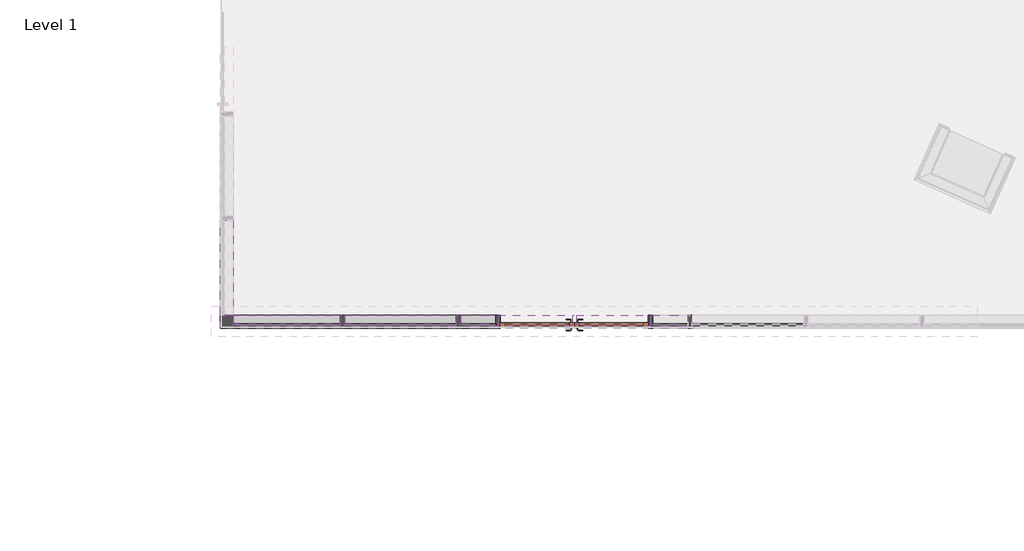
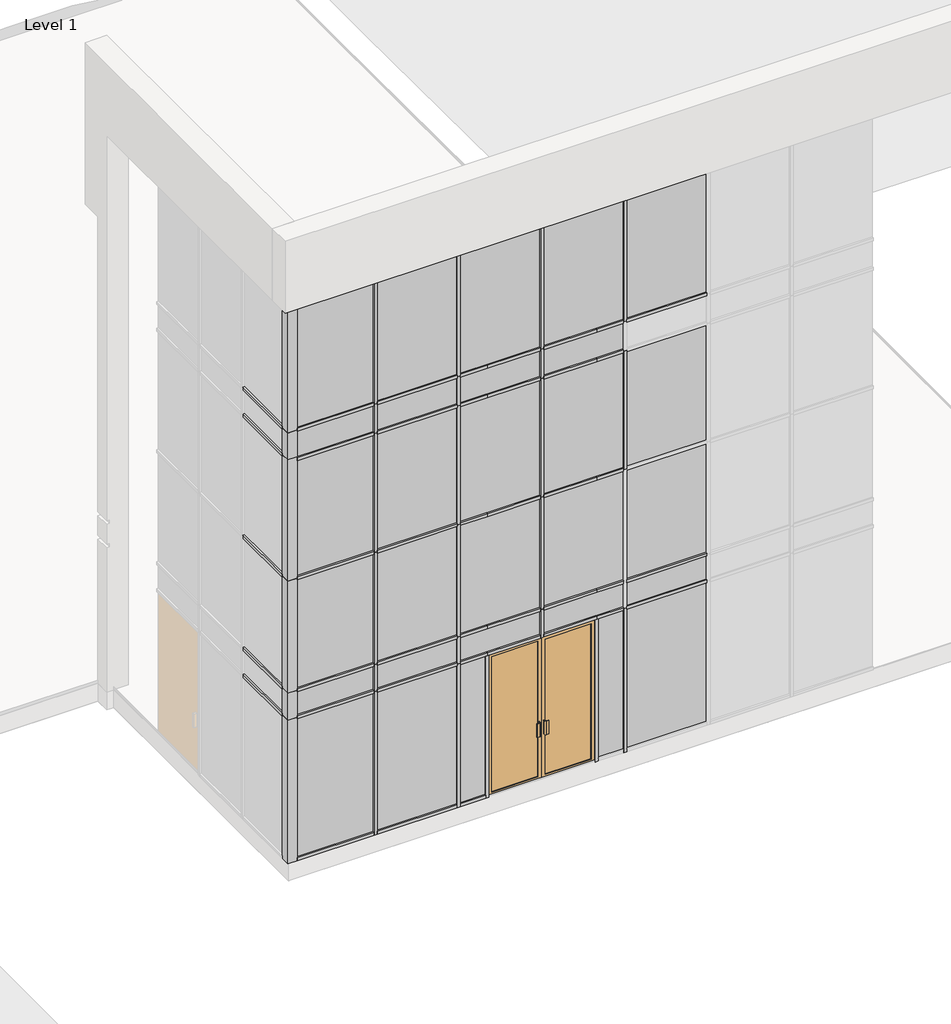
# One storey, part 1 of 6: 77 members, 29 plates, 1 door.
"""IFC4 building model written with IfcOpenShell, lengths in millimetres."""

from ifc_helpers import new_model, si_unit, origin, place, context, project, spatial, transform, mapped, element, save
from components import curtain_wall_store_front_dbl_store_front_double_door_801bb5a2, quad_corner_mullion_quad_mullion_1_36401268, quad_corner_mullion_quad_mullion_1_ea4f9b91, quad_corner_mullion_quad_mullion_1_01ad82a5, quad_corner_mullion_quad_mullion_1_1bba9a7c, quad_corner_mullion_quad_mullion_1_c8c6a4dc, rectangular_mullion_50_x_150mm_f9e96e8e, rectangular_mullion_50_x_150mm_3e94a90c, rectangular_mullion_50_x_150mm_e5e1dcca, rectangular_mullion_50_x_150mm_55a91b40, rectangular_mullion_50_x_150mm_2677f012, rectangular_mullion_50_x_150mm_a98d9a75, rectangular_mullion_50_x_150mm_ec0a15ed, rectangular_mullion_50_x_150mm_1c0c8fcc, rectangular_mullion_50_x_150mm_eadac301, rectangular_mullion_50_x_150mm_5d9cdbe7, rectangular_mullion_50_x_150mm_d8a6659f, rectangular_mullion_50_x_150mm_fcddba0b, rectangular_mullion_50_x_150mm_a0320c88, rectangular_mullion_50_x_150mm_ca17d0d0, rectangular_mullion_50_x_150mm_5d0e247a, rectangular_mullion_50_x_150mm_ac182503, rectangular_mullion_50_x_150mm_6df5bc23, rectangular_mullion_50_x_150mm_c664ab49, rectangular_mullion_50_x_150mm_22f77a7a, system_panel_glazed_e39aac95, system_panel_glazed_619aa5c3, system_panel_glazed_1cc95e9d, system_panel_glazed_5f4b9808, system_panel_glazed_b287760b, system_panel_glazed_29643dd6, system_panel_glazed_af9e971b, system_panel_glazed_48c6fd0a, system_panel_glazed_c7737e29, system_panel_glazed_306ee6b9, system_panel_glazed_77750b0d, system_panel_glazed_203c2d9e, system_panel_glazed_886dd139, system_panel_glazed_da816d4c, system_panel_glazed_7acc0e97, system_panel_glazed_b8e40a07, system_panel_glazed_b5705625, system_panel_glazed_676078d9, system_panel_glazed_869bd01b, system_panel_glazed_e5b4937b, system_panel_glazed_d8b70277, system_panel_glazed_a0fe1279, system_panel_glazed_06afaa24

model = new_model("IFC4")

# Units and contexts
model_context = context("Model", 3, world=origin())
ifc_project = project(units=[si_unit("LENGTHUNIT", "METRE", prefix="MILLI")], contexts=[model_context])

# Site, building, storey
site = spatial("IfcSite", under=ifc_project)
building = spatial("IfcBuilding", under=site)
storey = spatial("IfcBuildingStorey", under=building, Name="Level 1", Elevation=45720.0)

# Door
placement = place(None, origin())
curtain_wall_store_front_dbl_store_front_double_door_shape = curtain_wall_store_front_dbl_store_front_double_door_801bb5a2(model_context)
element("IfcDoor", 1, ObjectType="Curtain Wall-Store Front-Dbl : Store Front Double Door", at=placement, inside=storey, context=model_context, shape_type="MappedRepresentation", body=[
    mapped(curtain_wall_store_front_dbl_store_front_double_door_shape, transform((-6116.5463072, -8109.3373862, 45720.0), x_axis=(-1.0, 0.0, 0.0), y_axis=(0.0, -1.0, 0.0), z_axis=(0.0, 0.0, 1.0))),
])

# Members
quad_corner_mullion_quad_mullion_1_shape = quad_corner_mullion_quad_mullion_1_36401268(model_context)
element("IfcMember", 2, ObjectType="Quad Corner Mullion : Quad Mullion 1", at=placement, inside=storey, context=model_context, shape_type="MappedRepresentation", body=[
    mapped(quad_corner_mullion_quad_mullion_1_shape, transform((-10125.6188072, -8109.3373862, 50520.0), x_axis=(0.0, -1.0, 0.0), y_axis=(-1.0, 0.0, 0.0), z_axis=(0.0, 0.0, -1.0))),
])
quad_corner_mullion_quad_mullion_1_2_shape = quad_corner_mullion_quad_mullion_1_ea4f9b91(model_context)
element("IfcMember", 3, ObjectType="Quad Corner Mullion : Quad Mullion 1", at=placement, inside=storey, context=model_context, shape_type="MappedRepresentation", body=[
    mapped(quad_corner_mullion_quad_mullion_1_2_shape, transform((-10125.6188072, -8109.3373862, 53035.2), x_axis=(0.0, -1.0, 0.0), y_axis=(-1.0, 0.0, 0.0), z_axis=(0.0, 0.0, -1.0))),
])
quad_corner_mullion_quad_mullion_1_3_shape = quad_corner_mullion_quad_mullion_1_01ad82a5(model_context)
element("IfcMember", 4, ObjectType="Quad Corner Mullion : Quad Mullion 1", at=placement, inside=storey, context=model_context, shape_type="MappedRepresentation", body=[
    mapped(quad_corner_mullion_quad_mullion_1_3_shape, transform((-10125.6188072, -8109.3373862, 48615.6), x_axis=(0.0, -1.0, 0.0), y_axis=(-1.0, 0.0, 0.0), z_axis=(0.0, 0.0, -1.0))),
])
quad_corner_mullion_quad_mullion_1_4_shape = quad_corner_mullion_quad_mullion_1_1bba9a7c(model_context)
element("IfcMember", 5, ObjectType="Quad Corner Mullion : Quad Mullion 1", at=placement, inside=storey, context=model_context, shape_type="MappedRepresentation", body=[
    mapped(quad_corner_mullion_quad_mullion_1_4_shape, transform((-10125.6188072, -8109.3373862, 48158.4), x_axis=(0.0, -1.0, 0.0), y_axis=(-1.0, 0.0, 0.0), z_axis=(0.0, 0.0, -1.0))),
])
element("IfcMember", 6, ObjectType="Quad Corner Mullion : Quad Mullion 1", at=placement, inside=storey, context=model_context, shape_type="MappedRepresentation", body=[
    mapped(quad_corner_mullion_quad_mullion_1_4_shape, transform((-10125.6188072, -8109.3373862, 52578.0), x_axis=(0.0, -1.0, 0.0), y_axis=(-1.0, 0.0, 0.0), z_axis=(0.0, 0.0, -1.0))),
])
quad_corner_mullion_quad_mullion_1_5_shape = quad_corner_mullion_quad_mullion_1_c8c6a4dc(model_context)
element("IfcMember", 7, ObjectType="Quad Corner Mullion : Quad Mullion 1", at=placement, inside=storey, context=model_context, shape_type="MappedRepresentation", body=[
    mapped(quad_corner_mullion_quad_mullion_1_5_shape, transform((-10125.6188072, -8109.3373862, 45720.0), x_axis=(0.0, -1.0, 0.0), y_axis=(-1.0, 0.0, 0.0), z_axis=(0.0, 0.0, -1.0))),
])
rectangular_mullion_50_x_150mm_shape = rectangular_mullion_50_x_150mm_f9e96e8e(model_context)
element("IfcMember", 8, ObjectType="Rectangular Mullion : 50 x 150mm", at=placement, inside=storey, context=model_context, shape_type="MappedRepresentation", body=[
    mapped(rectangular_mullion_50_x_150mm_shape, transform((-10125.6188072, -8034.3373862, 55168.8), x_axis=(0.0, 0.0, 1.0), y_axis=(-1.0, 0.0, 0.0), z_axis=(0.0, -1.0, 0.0))),
])
rectangular_mullion_50_x_150mm_2_shape = rectangular_mullion_50_x_150mm_3e94a90c(model_context)
element("IfcMember", 9, ObjectType="Rectangular Mullion : 50 x 150mm", at=placement, inside=storey, context=model_context, shape_type="MappedRepresentation", body=[
    mapped(rectangular_mullion_50_x_150mm_2_shape, transform((-10125.6188072, -8034.3373862, 48158.4), x_axis=(0.0, 0.0, 1.0), y_axis=(-1.0, 0.0, 0.0), z_axis=(0.0, -1.0, 0.0))),
])
element("IfcMember", 10, ObjectType="Rectangular Mullion : 50 x 150mm", at=placement, inside=storey, context=model_context, shape_type="MappedRepresentation", body=[
    mapped(rectangular_mullion_50_x_150mm_2_shape, transform((-10125.6188072, -8034.3373862, 50520.0), x_axis=(0.0, 0.0, 1.0), y_axis=(-1.0, 0.0, 0.0), z_axis=(0.0, -1.0, 0.0))),
])
element("IfcMember", 11, ObjectType="Rectangular Mullion : 50 x 150mm", at=placement, inside=storey, context=model_context, shape_type="MappedRepresentation", body=[
    mapped(rectangular_mullion_50_x_150mm_2_shape, transform((-10125.6188072, -8034.3373862, 53035.2), x_axis=(0.0, 0.0, 1.0), y_axis=(-1.0, 0.0, 0.0), z_axis=(0.0, -1.0, 0.0))),
])
element("IfcMember", 12, ObjectType="Rectangular Mullion : 50 x 150mm", at=placement, inside=storey, context=model_context, shape_type="MappedRepresentation", body=[
    mapped(rectangular_mullion_50_x_150mm_2_shape, transform((-10125.6188072, -8034.3373862, 48615.6), x_axis=(0.0, 0.0, 1.0), y_axis=(-1.0, 0.0, 0.0), z_axis=(0.0, -1.0, 0.0))),
])
element("IfcMember", 13, ObjectType="Rectangular Mullion : 50 x 150mm", at=placement, inside=storey, context=model_context, shape_type="MappedRepresentation", body=[
    mapped(rectangular_mullion_50_x_150mm_2_shape, transform((-10125.6188072, -8034.3373862, 52578.0), x_axis=(0.0, 0.0, 1.0), y_axis=(-1.0, 0.0, 0.0), z_axis=(0.0, -1.0, 0.0))),
])
rectangular_mullion_50_x_150mm_3_shape = rectangular_mullion_50_x_150mm_e5e1dcca(model_context)
element("IfcMember", 14, ObjectType="Rectangular Mullion : 50 x 150mm", at=placement, inside=storey, context=model_context, shape_type="MappedRepresentation", body=[
    mapped(rectangular_mullion_50_x_150mm_3_shape, transform((-8789.2613072, -8109.3373862, 48158.4), x_axis=(-1.0, 0.0, 0.0), y_axis=(0.0, 1.0, 0.0), z_axis=(0.0, 0.0, -1.0))),
])
element("IfcMember", 15, ObjectType="Rectangular Mullion : 50 x 150mm", at=placement, inside=storey, context=model_context, shape_type="MappedRepresentation", body=[
    mapped(rectangular_mullion_50_x_150mm_3_shape, transform((-7452.9038072, -8109.3373862, 48158.4), x_axis=(-1.0, 0.0, 0.0), y_axis=(0.0, 1.0, 0.0), z_axis=(0.0, 0.0, -1.0))),
])
rectangular_mullion_50_x_150mm_4_shape = rectangular_mullion_50_x_150mm_55a91b40(model_context)
element("IfcMember", 16, ObjectType="Rectangular Mullion : 50 x 150mm", at=placement, inside=storey, context=model_context, shape_type="MappedRepresentation", body=[
    mapped(rectangular_mullion_50_x_150mm_4_shape, transform((-8789.2613072, -8109.3373862, 48615.6), x_axis=(-1.0, 0.0, 0.0), y_axis=(0.0, 1.0, 0.0), z_axis=(0.0, 0.0, -1.0))),
])
element("IfcMember", 17, ObjectType="Rectangular Mullion : 50 x 150mm", at=placement, inside=storey, context=model_context, shape_type="MappedRepresentation", body=[
    mapped(rectangular_mullion_50_x_150mm_4_shape, transform((-7452.9038072, -8109.3373862, 48615.6), x_axis=(-1.0, 0.0, 0.0), y_axis=(0.0, 1.0, 0.0), z_axis=(0.0, 0.0, -1.0))),
])
element("IfcMember", 18, ObjectType="Rectangular Mullion : 50 x 150mm", at=placement, inside=storey, context=model_context, shape_type="MappedRepresentation", body=[
    mapped(rectangular_mullion_50_x_150mm_4_shape, transform((-6116.5463072, -8109.3373862, 48615.6), x_axis=(-1.0, 0.0, 0.0), y_axis=(0.0, 1.0, 0.0), z_axis=(0.0, 0.0, -1.0))),
])
rectangular_mullion_50_x_150mm_5_shape = rectangular_mullion_50_x_150mm_2677f012(model_context)
element("IfcMember", 19, ObjectType="Rectangular Mullion : 50 x 150mm", at=placement, inside=storey, context=model_context, shape_type="MappedRepresentation", body=[
    mapped(rectangular_mullion_50_x_150mm_5_shape, transform((-8789.2613072, -8109.3373862, 53035.2), x_axis=(-1.0, 0.0, 0.0), y_axis=(0.0, 1.0, 0.0), z_axis=(0.0, 0.0, -1.0))),
])
element("IfcMember", 20, ObjectType="Rectangular Mullion : 50 x 150mm", at=placement, inside=storey, context=model_context, shape_type="MappedRepresentation", body=[
    mapped(rectangular_mullion_50_x_150mm_5_shape, transform((-7452.9038072, -8109.3373862, 53035.2), x_axis=(-1.0, 0.0, 0.0), y_axis=(0.0, 1.0, 0.0), z_axis=(0.0, 0.0, -1.0))),
])
element("IfcMember", 21, ObjectType="Rectangular Mullion : 50 x 150mm", at=placement, inside=storey, context=model_context, shape_type="MappedRepresentation", body=[
    mapped(rectangular_mullion_50_x_150mm_5_shape, transform((-4780.1888072, -8109.3373862, 53035.2), x_axis=(-1.0, 0.0, 0.0), y_axis=(0.0, 1.0, 0.0), z_axis=(0.0, 0.0, -1.0))),
])
element("IfcMember", 22, ObjectType="Rectangular Mullion : 50 x 150mm", at=placement, inside=storey, context=model_context, shape_type="MappedRepresentation", body=[
    mapped(rectangular_mullion_50_x_150mm_5_shape, transform((-6116.5463072, -8109.3373862, 53035.2), x_axis=(-1.0, 0.0, 0.0), y_axis=(0.0, 1.0, 0.0), z_axis=(0.0, 0.0, -1.0))),
])
rectangular_mullion_50_x_150mm_6_shape = rectangular_mullion_50_x_150mm_a98d9a75(model_context)
element("IfcMember", 23, ObjectType="Rectangular Mullion : 50 x 150mm", at=placement, inside=storey, context=model_context, shape_type="MappedRepresentation", body=[
    mapped(rectangular_mullion_50_x_150mm_6_shape, transform((-7452.9038072, -8109.3373862, 45720.0), x_axis=(-1.0, 0.0, 0.0), y_axis=(0.0, 1.0, 0.0), z_axis=(0.0, 0.0, -1.0))),
])
element("IfcMember", 24, ObjectType="Rectangular Mullion : 50 x 150mm", at=placement, inside=storey, context=model_context, shape_type="MappedRepresentation", body=[
    mapped(rectangular_mullion_50_x_150mm_6_shape, transform((-4780.1888072, -8109.3373862, 45720.0), x_axis=(-1.0, 0.0, 0.0), y_axis=(0.0, 1.0, 0.0), z_axis=(0.0, 0.0, -1.0))),
])
element("IfcMember", 25, ObjectType="Rectangular Mullion : 50 x 150mm", at=placement, inside=storey, context=model_context, shape_type="MappedRepresentation", body=[
    mapped(rectangular_mullion_50_x_150mm_6_shape, transform((-8789.2613072, -8109.3373862, 45720.0), x_axis=(-1.0, 0.0, 0.0), y_axis=(0.0, 1.0, 0.0), z_axis=(0.0, 0.0, -1.0))),
])
rectangular_mullion_50_x_150mm_7_shape = rectangular_mullion_50_x_150mm_ec0a15ed(model_context)
element("IfcMember", 26, ObjectType="Rectangular Mullion : 50 x 150mm", at=placement, inside=storey, context=model_context, shape_type="MappedRepresentation", body=[
    mapped(rectangular_mullion_50_x_150mm_7_shape, transform((-6116.5463072, -8109.3373862, 48133.4), x_axis=(-1.0, 0.0, 0.0), y_axis=(0.0, 1.0, 0.0), z_axis=(0.0, 0.0, -1.0))),
])
rectangular_mullion_50_x_150mm_8_shape = rectangular_mullion_50_x_150mm_1c0c8fcc(model_context)
element("IfcMember", 27, ObjectType="Rectangular Mullion : 50 x 150mm", at=placement, inside=storey, context=model_context, shape_type="MappedRepresentation", body=[
    mapped(rectangular_mullion_50_x_150mm_8_shape, transform((-4755.1888072, -8109.3373862, 48615.6), x_axis=(0.0, 0.0, 1.0), y_axis=(0.0, 1.0, 0.0), z_axis=(-1.0, 0.0, 0.0))),
])
element("IfcMember", 28, ObjectType="Rectangular Mullion : 50 x 150mm", at=placement, inside=storey, context=model_context, shape_type="MappedRepresentation", body=[
    mapped(rectangular_mullion_50_x_150mm_8_shape, transform((-8764.2613072, -8109.3373862, 48158.4), x_axis=(0.0, 0.0, 1.0), y_axis=(0.0, 1.0, 0.0), z_axis=(-1.0, 0.0, 0.0))),
])
element("IfcMember", 29, ObjectType="Rectangular Mullion : 50 x 150mm", at=placement, inside=storey, context=model_context, shape_type="MappedRepresentation", body=[
    mapped(rectangular_mullion_50_x_150mm_8_shape, transform((-4755.1888072, -8109.3373862, 48158.4), x_axis=(0.0, 0.0, 1.0), y_axis=(0.0, 1.0, 0.0), z_axis=(-1.0, 0.0, 0.0))),
])
element("IfcMember", 30, ObjectType="Rectangular Mullion : 50 x 150mm", at=placement, inside=storey, context=model_context, shape_type="MappedRepresentation", body=[
    mapped(rectangular_mullion_50_x_150mm_8_shape, transform((-8764.2613072, -8109.3373862, 48615.6), x_axis=(0.0, 0.0, 1.0), y_axis=(0.0, 1.0, 0.0), z_axis=(-1.0, 0.0, 0.0))),
])
element("IfcMember", 31, ObjectType="Rectangular Mullion : 50 x 150mm", at=placement, inside=storey, context=model_context, shape_type="MappedRepresentation", body=[
    mapped(rectangular_mullion_50_x_150mm_8_shape, transform((-4755.1888072, -8109.3373862, 53035.2), x_axis=(0.0, 0.0, 1.0), y_axis=(0.0, 1.0, 0.0), z_axis=(-1.0, 0.0, 0.0))),
])
element("IfcMember", 32, ObjectType="Rectangular Mullion : 50 x 150mm", at=placement, inside=storey, context=model_context, shape_type="MappedRepresentation", body=[
    mapped(rectangular_mullion_50_x_150mm_8_shape, transform((-8764.2613072, -8109.3373862, 50520.0), x_axis=(0.0, 0.0, 1.0), y_axis=(0.0, 1.0, 0.0), z_axis=(-1.0, 0.0, 0.0))),
])
element("IfcMember", 33, ObjectType="Rectangular Mullion : 50 x 150mm", at=placement, inside=storey, context=model_context, shape_type="MappedRepresentation", body=[
    mapped(rectangular_mullion_50_x_150mm_8_shape, transform((-8764.2613072, -8109.3373862, 53035.2), x_axis=(0.0, 0.0, 1.0), y_axis=(0.0, 1.0, 0.0), z_axis=(-1.0, 0.0, 0.0))),
])
element("IfcMember", 34, ObjectType="Rectangular Mullion : 50 x 150mm", at=placement, inside=storey, context=model_context, shape_type="MappedRepresentation", body=[
    mapped(rectangular_mullion_50_x_150mm_8_shape, transform((-8764.2613072, -8109.3373862, 52535.2), x_axis=(0.0, 0.0, 1.0), y_axis=(0.0, 1.0, 0.0), z_axis=(-1.0, 0.0, 0.0))),
])
rectangular_mullion_50_x_150mm_9_shape = rectangular_mullion_50_x_150mm_eadac301(model_context)
element("IfcMember", 35, ObjectType="Rectangular Mullion : 50 x 150mm", at=placement, inside=storey, context=model_context, shape_type="MappedRepresentation", body=[
    mapped(rectangular_mullion_50_x_150mm_9_shape, transform((-10050.6188072, -8109.3373862, 50520.0), x_axis=(0.0, 0.0, 1.0), y_axis=(0.0, 1.0, 0.0), z_axis=(-1.0, 0.0, 0.0))),
])
element("IfcMember", 36, ObjectType="Rectangular Mullion : 50 x 150mm", at=placement, inside=storey, context=model_context, shape_type="MappedRepresentation", body=[
    mapped(rectangular_mullion_50_x_150mm_9_shape, transform((-10050.6188072, -8109.3373862, 48158.4), x_axis=(0.0, 0.0, 1.0), y_axis=(0.0, 1.0, 0.0), z_axis=(-1.0, 0.0, 0.0))),
])
element("IfcMember", 37, ObjectType="Rectangular Mullion : 50 x 150mm", at=placement, inside=storey, context=model_context, shape_type="MappedRepresentation", body=[
    mapped(rectangular_mullion_50_x_150mm_9_shape, transform((-10050.6188072, -8109.3373862, 48615.6), x_axis=(0.0, 0.0, 1.0), y_axis=(0.0, 1.0, 0.0), z_axis=(-1.0, 0.0, 0.0))),
])
element("IfcMember", 38, ObjectType="Rectangular Mullion : 50 x 150mm", at=placement, inside=storey, context=model_context, shape_type="MappedRepresentation", body=[
    mapped(rectangular_mullion_50_x_150mm_9_shape, transform((-10050.6188072, -8109.3373862, 53035.2), x_axis=(0.0, 0.0, 1.0), y_axis=(0.0, 1.0, 0.0), z_axis=(-1.0, 0.0, 0.0))),
])
element("IfcMember", 39, ObjectType="Rectangular Mullion : 50 x 150mm", at=placement, inside=storey, context=model_context, shape_type="MappedRepresentation", body=[
    mapped(rectangular_mullion_50_x_150mm_9_shape, transform((-10050.6188072, -8109.3373862, 52535.2), x_axis=(0.0, 0.0, 1.0), y_axis=(0.0, 1.0, 0.0), z_axis=(-1.0, 0.0, 0.0))),
])
rectangular_mullion_50_x_150mm_10_shape = rectangular_mullion_50_x_150mm_5d9cdbe7(model_context)
element("IfcMember", 40, ObjectType="Rectangular Mullion : 50 x 150mm", at=placement, inside=storey, context=model_context, shape_type="MappedRepresentation", body=[
    mapped(rectangular_mullion_50_x_150mm_10_shape, transform((-7477.9038072, -8109.3373862, 45720.0), x_axis=(0.0, 0.0, -1.0), y_axis=(0.0, 1.0, 0.0), z_axis=(1.0, 0.0, 0.0))),
])
element("IfcMember", 41, ObjectType="Rectangular Mullion : 50 x 150mm", at=placement, inside=storey, context=model_context, shape_type="MappedRepresentation", body=[
    mapped(rectangular_mullion_50_x_150mm_10_shape, transform((-8764.2613072, -8109.3373862, 55168.8), x_axis=(0.0, 0.0, 1.0), y_axis=(0.0, 1.0, 0.0), z_axis=(-1.0, 0.0, 0.0))),
])
element("IfcMember", 42, ObjectType="Rectangular Mullion : 50 x 150mm", at=placement, inside=storey, context=model_context, shape_type="MappedRepresentation", body=[
    mapped(rectangular_mullion_50_x_150mm_10_shape, transform((-4755.1888072, -8109.3373862, 55168.8), x_axis=(0.0, 0.0, 1.0), y_axis=(0.0, 1.0, 0.0), z_axis=(-1.0, 0.0, 0.0))),
])
rectangular_mullion_50_x_150mm_11_shape = rectangular_mullion_50_x_150mm_d8a6659f(model_context)
element("IfcMember", 43, ObjectType="Rectangular Mullion : 50 x 150mm", at=placement, inside=storey, context=model_context, shape_type="MappedRepresentation", body=[
    mapped(rectangular_mullion_50_x_150mm_11_shape, transform((-10050.6188072, -8109.3373862, 55168.8), x_axis=(0.0, 0.0, 1.0), y_axis=(0.0, 1.0, 0.0), z_axis=(-1.0, 0.0, 0.0))),
])
element("IfcMember", 44, ObjectType="Rectangular Mullion : 50 x 150mm", at=placement, inside=storey, context=model_context, shape_type="MappedRepresentation", body=[
    mapped(rectangular_mullion_50_x_150mm_11_shape, transform((-8814.2613072, -8109.3373862, 45720.0), x_axis=(0.0, 0.0, -1.0), y_axis=(0.0, 1.0, 0.0), z_axis=(1.0, 0.0, 0.0))),
])
rectangular_mullion_50_x_150mm_12_shape = rectangular_mullion_50_x_150mm_fcddba0b(model_context)
element("IfcMember", 45, ObjectType="Rectangular Mullion : 50 x 150mm", at=placement, inside=storey, context=model_context, shape_type="MappedRepresentation", body=[
    mapped(rectangular_mullion_50_x_150mm_12_shape, transform((-6995.7038072, -8109.3373862, 45720.0), x_axis=(-1.0, 0.0, 0.0), y_axis=(0.0, 1.0, 0.0), z_axis=(0.0, 0.0, -1.0))),
])
element("IfcMember", 46, ObjectType="Rectangular Mullion : 50 x 150mm", at=placement, inside=storey, context=model_context, shape_type="MappedRepresentation", body=[
    mapped(rectangular_mullion_50_x_150mm_12_shape, transform((-5237.3888072, -8109.3373862, 45720.0), x_axis=(-1.0, 0.0, 0.0), y_axis=(0.0, 1.0, 0.0), z_axis=(0.0, 0.0, -1.0))),
])
rectangular_mullion_50_x_150mm_13_shape = rectangular_mullion_50_x_150mm_a0320c88(model_context)
element("IfcMember", 47, ObjectType="Rectangular Mullion : 50 x 150mm", at=placement, inside=storey, context=model_context, shape_type="MappedRepresentation", body=[
    mapped(rectangular_mullion_50_x_150mm_13_shape, transform((-7427.9038072, -8109.3373862, 55168.8), x_axis=(0.0, 0.0, 1.0), y_axis=(0.0, 1.0, 0.0), z_axis=(-1.0, 0.0, 0.0))),
])
rectangular_mullion_50_x_150mm_14_shape = rectangular_mullion_50_x_150mm_ca17d0d0(model_context)
element("IfcMember", 48, ObjectType="Rectangular Mullion : 50 x 150mm", at=placement, inside=storey, context=model_context, shape_type="MappedRepresentation", body=[
    mapped(rectangular_mullion_50_x_150mm_14_shape, transform((-6995.7038072, -8109.3373862, 48158.4), x_axis=(0.0, 0.0, 1.0), y_axis=(0.0, 1.0, 0.0), z_axis=(-1.0, 0.0, 0.0))),
])
element("IfcMember", 49, ObjectType="Rectangular Mullion : 50 x 150mm", at=placement, inside=storey, context=model_context, shape_type="MappedRepresentation", body=[
    mapped(rectangular_mullion_50_x_150mm_14_shape, transform((-6995.7038072, -8109.3373862, 48615.6), x_axis=(0.0, 0.0, 1.0), y_axis=(0.0, 1.0, 0.0), z_axis=(-1.0, 0.0, 0.0))),
])
element("IfcMember", 50, ObjectType="Rectangular Mullion : 50 x 150mm", at=placement, inside=storey, context=model_context, shape_type="MappedRepresentation", body=[
    mapped(rectangular_mullion_50_x_150mm_14_shape, transform((-6995.7038072, -8109.3373862, 50520.0), x_axis=(0.0, 0.0, 1.0), y_axis=(0.0, 1.0, 0.0), z_axis=(-1.0, 0.0, 0.0))),
])
element("IfcMember", 51, ObjectType="Rectangular Mullion : 50 x 150mm", at=placement, inside=storey, context=model_context, shape_type="MappedRepresentation", body=[
    mapped(rectangular_mullion_50_x_150mm_14_shape, transform((-6995.7038072, -8109.3373862, 53035.2), x_axis=(0.0, 0.0, 1.0), y_axis=(0.0, 1.0, 0.0), z_axis=(-1.0, 0.0, 0.0))),
])
element("IfcMember", 52, ObjectType="Rectangular Mullion : 50 x 150mm", at=placement, inside=storey, context=model_context, shape_type="MappedRepresentation", body=[
    mapped(rectangular_mullion_50_x_150mm_14_shape, transform((-6995.7038072, -8109.3373862, 52535.2), x_axis=(0.0, 0.0, 1.0), y_axis=(0.0, 1.0, 0.0), z_axis=(-1.0, 0.0, 0.0))),
])
rectangular_mullion_50_x_150mm_15_shape = rectangular_mullion_50_x_150mm_5d0e247a(model_context)
element("IfcMember", 53, ObjectType="Rectangular Mullion : 50 x 150mm", at=placement, inside=storey, context=model_context, shape_type="MappedRepresentation", body=[
    mapped(rectangular_mullion_50_x_150mm_15_shape, transform((-6995.7038072, -8109.3373862, 55168.8), x_axis=(0.0, 0.0, 1.0), y_axis=(0.0, 1.0, 0.0), z_axis=(-1.0, 0.0, 0.0))),
])
rectangular_mullion_50_x_150mm_16_shape = rectangular_mullion_50_x_150mm_ac182503(model_context)
element("IfcMember", 54, ObjectType="Rectangular Mullion : 50 x 150mm", at=placement, inside=storey, context=model_context, shape_type="MappedRepresentation", body=[
    mapped(rectangular_mullion_50_x_150mm_16_shape, transform((-7427.9038072, -8109.3373862, 48158.4), x_axis=(0.0, 0.0, 1.0), y_axis=(0.0, 1.0, 0.0), z_axis=(-1.0, 0.0, 0.0))),
])
element("IfcMember", 55, ObjectType="Rectangular Mullion : 50 x 150mm", at=placement, inside=storey, context=model_context, shape_type="MappedRepresentation", body=[
    mapped(rectangular_mullion_50_x_150mm_16_shape, transform((-7427.9038072, -8109.3373862, 48615.6), x_axis=(0.0, 0.0, 1.0), y_axis=(0.0, 1.0, 0.0), z_axis=(-1.0, 0.0, 0.0))),
])
element("IfcMember", 56, ObjectType="Rectangular Mullion : 50 x 150mm", at=placement, inside=storey, context=model_context, shape_type="MappedRepresentation", body=[
    mapped(rectangular_mullion_50_x_150mm_16_shape, transform((-7427.9038072, -8109.3373862, 50520.0), x_axis=(0.0, 0.0, 1.0), y_axis=(0.0, 1.0, 0.0), z_axis=(-1.0, 0.0, 0.0))),
])
element("IfcMember", 57, ObjectType="Rectangular Mullion : 50 x 150mm", at=placement, inside=storey, context=model_context, shape_type="MappedRepresentation", body=[
    mapped(rectangular_mullion_50_x_150mm_16_shape, transform((-7427.9038072, -8109.3373862, 53035.2), x_axis=(0.0, 0.0, 1.0), y_axis=(0.0, 1.0, 0.0), z_axis=(-1.0, 0.0, 0.0))),
])
element("IfcMember", 58, ObjectType="Rectangular Mullion : 50 x 150mm", at=placement, inside=storey, context=model_context, shape_type="MappedRepresentation", body=[
    mapped(rectangular_mullion_50_x_150mm_16_shape, transform((-7427.9038072, -8109.3373862, 52535.2), x_axis=(0.0, 0.0, 1.0), y_axis=(0.0, 1.0, 0.0), z_axis=(-1.0, 0.0, 0.0))),
])
rectangular_mullion_50_x_150mm_17_shape = rectangular_mullion_50_x_150mm_6df5bc23(model_context)
element("IfcMember", 59, ObjectType="Rectangular Mullion : 50 x 150mm", at=placement, inside=storey, context=model_context, shape_type="MappedRepresentation", body=[
    mapped(rectangular_mullion_50_x_150mm_17_shape, transform((-7020.7038072, -8109.3373862, 45720.0), x_axis=(0.0, 0.0, -1.0), y_axis=(0.0, 1.0, 0.0), z_axis=(1.0, 0.0, 0.0))),
])
element("IfcMember", 60, ObjectType="Rectangular Mullion : 50 x 150mm", at=placement, inside=storey, context=model_context, shape_type="MappedRepresentation", body=[
    mapped(rectangular_mullion_50_x_150mm_16_shape, transform((-5237.3888072, -8109.3373862, 48615.6), x_axis=(0.0, 0.0, 1.0), y_axis=(0.0, 1.0, 0.0), z_axis=(-1.0, 0.0, 0.0))),
])
element("IfcMember", 61, ObjectType="Rectangular Mullion : 50 x 150mm", at=placement, inside=storey, context=model_context, shape_type="MappedRepresentation", body=[
    mapped(rectangular_mullion_50_x_150mm_16_shape, transform((-5237.3888072, -8109.3373862, 53035.2), x_axis=(0.0, 0.0, 1.0), y_axis=(0.0, 1.0, 0.0), z_axis=(-1.0, 0.0, 0.0))),
])
element("IfcMember", 62, ObjectType="Rectangular Mullion : 50 x 150mm", at=placement, inside=storey, context=model_context, shape_type="MappedRepresentation", body=[
    mapped(rectangular_mullion_50_x_150mm_16_shape, transform((-5237.3888072, -8109.3373862, 50520.0), x_axis=(0.0, 0.0, 1.0), y_axis=(0.0, 1.0, 0.0), z_axis=(-1.0, 0.0, 0.0))),
])
element("IfcMember", 63, ObjectType="Rectangular Mullion : 50 x 150mm", at=placement, inside=storey, context=model_context, shape_type="MappedRepresentation", body=[
    mapped(rectangular_mullion_50_x_150mm_16_shape, transform((-5237.3888072, -8109.3373862, 52535.2), x_axis=(0.0, 0.0, 1.0), y_axis=(0.0, 1.0, 0.0), z_axis=(-1.0, 0.0, 0.0))),
])
element("IfcMember", 64, ObjectType="Rectangular Mullion : 50 x 150mm", at=placement, inside=storey, context=model_context, shape_type="MappedRepresentation", body=[
    mapped(rectangular_mullion_50_x_150mm_15_shape, transform((-6091.5463072, -8109.3373862, 55168.8), x_axis=(0.0, 0.0, 1.0), y_axis=(0.0, 1.0, 0.0), z_axis=(-1.0, 0.0, 0.0))),
])
element("IfcMember", 65, ObjectType="Rectangular Mullion : 50 x 150mm", at=placement, inside=storey, context=model_context, shape_type="MappedRepresentation", body=[
    mapped(rectangular_mullion_50_x_150mm_16_shape, transform((-5237.3888072, -8109.3373862, 48158.4), x_axis=(0.0, 0.0, 1.0), y_axis=(0.0, 1.0, 0.0), z_axis=(-1.0, 0.0, 0.0))),
])
element("IfcMember", 66, ObjectType="Rectangular Mullion : 50 x 150mm", at=placement, inside=storey, context=model_context, shape_type="MappedRepresentation", body=[
    mapped(rectangular_mullion_50_x_150mm_14_shape, transform((-6091.5463072, -8109.3373862, 48615.6), x_axis=(0.0, 0.0, 1.0), y_axis=(0.0, 1.0, 0.0), z_axis=(-1.0, 0.0, 0.0))),
])
element("IfcMember", 67, ObjectType="Rectangular Mullion : 50 x 150mm", at=placement, inside=storey, context=model_context, shape_type="MappedRepresentation", body=[
    mapped(rectangular_mullion_50_x_150mm_14_shape, transform((-6091.5463072, -8109.3373862, 53035.2), x_axis=(0.0, 0.0, 1.0), y_axis=(0.0, 1.0, 0.0), z_axis=(-1.0, 0.0, 0.0))),
])
element("IfcMember", 68, ObjectType="Rectangular Mullion : 50 x 150mm", at=placement, inside=storey, context=model_context, shape_type="MappedRepresentation", body=[
    mapped(rectangular_mullion_50_x_150mm_14_shape, transform((-6091.5463072, -8109.3373862, 50520.0), x_axis=(0.0, 0.0, 1.0), y_axis=(0.0, 1.0, 0.0), z_axis=(-1.0, 0.0, 0.0))),
])
element("IfcMember", 69, ObjectType="Rectangular Mullion : 50 x 150mm", at=placement, inside=storey, context=model_context, shape_type="MappedRepresentation", body=[
    mapped(rectangular_mullion_50_x_150mm_14_shape, transform((-6091.5463072, -8109.3373862, 52535.2), x_axis=(0.0, 0.0, 1.0), y_axis=(0.0, 1.0, 0.0), z_axis=(-1.0, 0.0, 0.0))),
])
element("IfcMember", 70, ObjectType="Rectangular Mullion : 50 x 150mm", at=placement, inside=storey, context=model_context, shape_type="MappedRepresentation", body=[
    mapped(rectangular_mullion_50_x_150mm_13_shape, transform((-5237.3888072, -8109.3373862, 55168.8), x_axis=(0.0, 0.0, 1.0), y_axis=(0.0, 1.0, 0.0), z_axis=(-1.0, 0.0, 0.0))),
])
element("IfcMember", 71, ObjectType="Rectangular Mullion : 50 x 150mm", at=placement, inside=storey, context=model_context, shape_type="MappedRepresentation", body=[
    mapped(rectangular_mullion_50_x_150mm_14_shape, transform((-6091.5463072, -8109.3373862, 48158.4), x_axis=(0.0, 0.0, 1.0), y_axis=(0.0, 1.0, 0.0), z_axis=(-1.0, 0.0, 0.0))),
])
rectangular_mullion_50_x_150mm_18_shape = rectangular_mullion_50_x_150mm_c664ab49(model_context)
element("IfcMember", 72, ObjectType="Rectangular Mullion : 50 x 150mm", at=placement, inside=storey, context=model_context, shape_type="MappedRepresentation", body=[
    mapped(rectangular_mullion_50_x_150mm_18_shape, transform((-7452.9038072, -8109.3373862, 50520.0), x_axis=(-1.0, 0.0, 0.0), y_axis=(0.0, 1.0, 0.0), z_axis=(0.0, 0.0, -1.0))),
])
element("IfcMember", 73, ObjectType="Rectangular Mullion : 50 x 150mm", at=placement, inside=storey, context=model_context, shape_type="MappedRepresentation", body=[
    mapped(rectangular_mullion_50_x_150mm_18_shape, transform((-8789.2613072, -8109.3373862, 50520.0), x_axis=(-1.0, 0.0, 0.0), y_axis=(0.0, 1.0, 0.0), z_axis=(0.0, 0.0, -1.0))),
])
element("IfcMember", 74, ObjectType="Rectangular Mullion : 50 x 150mm", at=placement, inside=storey, context=model_context, shape_type="MappedRepresentation", body=[
    mapped(rectangular_mullion_50_x_150mm_18_shape, transform((-6116.5463072, -8109.3373862, 50520.0), x_axis=(-1.0, 0.0, 0.0), y_axis=(0.0, 1.0, 0.0), z_axis=(0.0, 0.0, -1.0))),
])
element("IfcMember", 75, ObjectType="Rectangular Mullion : 50 x 150mm", at=placement, inside=storey, context=model_context, shape_type="MappedRepresentation", body=[
    mapped(rectangular_mullion_50_x_150mm_18_shape, transform((-4780.1888072, -8109.3373862, 50520.0), x_axis=(-1.0, 0.0, 0.0), y_axis=(0.0, 1.0, 0.0), z_axis=(0.0, 0.0, -1.0))),
])
rectangular_mullion_50_x_150mm_19_shape = rectangular_mullion_50_x_150mm_22f77a7a(model_context)
element("IfcMember", 76, ObjectType="Rectangular Mullion : 50 x 150mm", at=placement, inside=storey, context=model_context, shape_type="MappedRepresentation", body=[
    mapped(rectangular_mullion_50_x_150mm_19_shape, transform((-7452.9038072, -8109.3373862, 52535.2), x_axis=(-1.0, 0.0, 0.0), y_axis=(0.0, 1.0, 0.0), z_axis=(0.0, 0.0, -1.0))),
])
element("IfcMember", 77, ObjectType="Rectangular Mullion : 50 x 150mm", at=placement, inside=storey, context=model_context, shape_type="MappedRepresentation", body=[
    mapped(rectangular_mullion_50_x_150mm_19_shape, transform((-8789.2613072, -8109.3373862, 52535.2), x_axis=(-1.0, 0.0, 0.0), y_axis=(0.0, 1.0, 0.0), z_axis=(0.0, 0.0, -1.0))),
])
element("IfcMember", 78, ObjectType="Rectangular Mullion : 50 x 150mm", at=placement, inside=storey, context=model_context, shape_type="MappedRepresentation", body=[
    mapped(rectangular_mullion_50_x_150mm_19_shape, transform((-6116.5463072, -8109.3373862, 52535.2), x_axis=(-1.0, 0.0, 0.0), y_axis=(0.0, 1.0, 0.0), z_axis=(0.0, 0.0, -1.0))),
])

# Plates
system_panel_glazed_shape = system_panel_glazed_e39aac95(model_context)
element("IfcPlate", 79, ObjectType="System Panel : Glazed", at=placement, inside=storey, context=model_context, shape_type="MappedRepresentation", body=[
    mapped(system_panel_glazed_shape, transform((-9432.4400572, -8109.3373862, 45770.0), x_axis=(-1.0, 0.0, 0.0), y_axis=(0.0, -1.0, 0.0), z_axis=(0.0, 0.0, 1.0))),
])
system_panel_glazed_2_shape = system_panel_glazed_619aa5c3(model_context)
element("IfcPlate", 80, ObjectType="System Panel : Glazed", at=placement, inside=storey, context=model_context, shape_type="MappedRepresentation", body=[
    mapped(system_panel_glazed_2_shape, transform((-9432.4400572, -8109.3373862, 48183.4), x_axis=(-1.0, 0.0, 0.0), y_axis=(0.0, -1.0, 0.0), z_axis=(0.0, 0.0, 1.0))),
])
system_panel_glazed_3_shape = system_panel_glazed_1cc95e9d(model_context)
element("IfcPlate", 81, ObjectType="System Panel : Glazed", at=placement, inside=storey, context=model_context, shape_type="MappedRepresentation", body=[
    mapped(system_panel_glazed_3_shape, transform((-9432.4400572, -8109.3373862, 48640.6), x_axis=(-1.0, 0.0, 0.0), y_axis=(0.0, -1.0, 0.0), z_axis=(0.0, 0.0, 1.0))),
])
system_panel_glazed_4_shape = system_panel_glazed_5f4b9808(model_context)
element("IfcPlate", 82, ObjectType="System Panel : Glazed", at=placement, inside=storey, context=model_context, shape_type="MappedRepresentation", body=[
    mapped(system_panel_glazed_4_shape, transform((-9432.4400572, -8109.3373862, 53060.2), x_axis=(-1.0, 0.0, 0.0), y_axis=(0.0, -1.0, 0.0), z_axis=(0.0, 0.0, 1.0))),
])
system_panel_glazed_5_shape = system_panel_glazed_b287760b(model_context)
element("IfcPlate", 83, ObjectType="System Panel : Glazed", at=placement, inside=storey, context=model_context, shape_type="MappedRepresentation", body=[
    mapped(system_panel_glazed_5_shape, transform((-8121.0825572, -8109.3373862, 45770.0), x_axis=(-1.0, 0.0, 0.0), y_axis=(0.0, -1.0, 0.0), z_axis=(0.0, 0.0, 1.0))),
])
element("IfcPlate", 84, ObjectType="System Panel : Glazed", at=placement, inside=storey, context=model_context, shape_type="MappedRepresentation", body=[
    mapped(system_panel_glazed_5_shape, transform((-4112.0100572, -8109.3373862, 45770.0), x_axis=(-1.0, 0.0, 0.0), y_axis=(0.0, -1.0, 0.0), z_axis=(0.0, 0.0, 1.0))),
])
system_panel_glazed_6_shape = system_panel_glazed_29643dd6(model_context)
element("IfcPlate", 85, ObjectType="System Panel : Glazed", at=placement, inside=storey, context=model_context, shape_type="MappedRepresentation", body=[
    mapped(system_panel_glazed_6_shape, transform((-8121.0825572, -8109.3373862, 48183.4), x_axis=(-1.0, 0.0, 0.0), y_axis=(0.0, -1.0, 0.0), z_axis=(0.0, 0.0, 1.0))),
])
element("IfcPlate", 86, ObjectType="System Panel : Glazed", at=placement, inside=storey, context=model_context, shape_type="MappedRepresentation", body=[
    mapped(system_panel_glazed_6_shape, transform((-4112.0100572, -8109.3373862, 48183.4), x_axis=(-1.0, 0.0, 0.0), y_axis=(0.0, -1.0, 0.0), z_axis=(0.0, 0.0, 1.0))),
])
system_panel_glazed_7_shape = system_panel_glazed_af9e971b(model_context)
element("IfcPlate", 87, ObjectType="System Panel : Glazed", at=placement, inside=storey, context=model_context, shape_type="MappedRepresentation", body=[
    mapped(system_panel_glazed_7_shape, transform((-8121.0825572, -8109.3373862, 48640.6), x_axis=(-1.0, 0.0, 0.0), y_axis=(0.0, -1.0, 0.0), z_axis=(0.0, 0.0, 1.0))),
])
element("IfcPlate", 88, ObjectType="System Panel : Glazed", at=placement, inside=storey, context=model_context, shape_type="MappedRepresentation", body=[
    mapped(system_panel_glazed_7_shape, transform((-4112.0100572, -8109.3373862, 48640.6), x_axis=(-1.0, 0.0, 0.0), y_axis=(0.0, -1.0, 0.0), z_axis=(0.0, 0.0, 1.0))),
])
system_panel_glazed_8_shape = system_panel_glazed_48c6fd0a(model_context)
element("IfcPlate", 89, ObjectType="System Panel : Glazed", at=placement, inside=storey, context=model_context, shape_type="MappedRepresentation", body=[
    mapped(system_panel_glazed_8_shape, transform((-8121.0825572, -8109.3373862, 53060.2), x_axis=(-1.0, 0.0, 0.0), y_axis=(0.0, -1.0, 0.0), z_axis=(0.0, 0.0, 1.0))),
])
element("IfcPlate", 90, ObjectType="System Panel : Glazed", at=placement, inside=storey, context=model_context, shape_type="MappedRepresentation", body=[
    mapped(system_panel_glazed_8_shape, transform((-4112.0100572, -8109.3373862, 53060.2), x_axis=(-1.0, 0.0, 0.0), y_axis=(0.0, -1.0, 0.0), z_axis=(0.0, 0.0, 1.0))),
])
system_panel_glazed_9_shape = system_panel_glazed_c7737e29(model_context)
element("IfcPlate", 91, ObjectType="System Panel : Glazed", at=placement, inside=storey, context=model_context, shape_type="MappedRepresentation", body=[
    mapped(system_panel_glazed_9_shape, transform((-6784.7250572, -8109.3373862, 48183.4), x_axis=(-1.0, 0.0, 0.0), y_axis=(0.0, -1.0, 0.0), z_axis=(0.0, 0.0, 1.0))),
])
system_panel_glazed_10_shape = system_panel_glazed_306ee6b9(model_context)
element("IfcPlate", 92, ObjectType="System Panel : Glazed", at=placement, inside=storey, context=model_context, shape_type="MappedRepresentation", body=[
    mapped(system_panel_glazed_10_shape, transform((-6784.7250572, -8109.3373862, 48640.6), x_axis=(-1.0, 0.0, 0.0), y_axis=(0.0, -1.0, 0.0), z_axis=(0.0, 0.0, 1.0))),
])
system_panel_glazed_11_shape = system_panel_glazed_77750b0d(model_context)
element("IfcPlate", 93, ObjectType="System Panel : Glazed", at=placement, inside=storey, context=model_context, shape_type="MappedRepresentation", body=[
    mapped(system_panel_glazed_11_shape, transform((-6784.7250572, -8109.3373862, 53060.2), x_axis=(-1.0, 0.0, 0.0), y_axis=(0.0, -1.0, 0.0), z_axis=(0.0, 0.0, 1.0))),
])
system_panel_glazed_12_shape = system_panel_glazed_203c2d9e(model_context)
element("IfcPlate", 94, ObjectType="System Panel : Glazed", at=placement, inside=storey, context=model_context, shape_type="MappedRepresentation", body=[
    mapped(system_panel_glazed_12_shape, transform((-5008.7888072, -8109.3373862, 45770.0), x_axis=(-1.0, 0.0, 0.0), y_axis=(0.0, -1.0, 0.0), z_axis=(0.0, 0.0, 1.0))),
])
element("IfcPlate", 95, ObjectType="System Panel : Glazed", at=placement, inside=storey, context=model_context, shape_type="MappedRepresentation", body=[
    mapped(system_panel_glazed_12_shape, transform((-7224.3038072, -8109.3373862, 45770.0), x_axis=(-1.0, 0.0, 0.0), y_axis=(0.0, -1.0, 0.0), z_axis=(0.0, 0.0, 1.0))),
])
system_panel_glazed_13_shape = system_panel_glazed_886dd139(model_context)
element("IfcPlate", 96, ObjectType="System Panel : Glazed", at=placement, inside=storey, context=model_context, shape_type="MappedRepresentation", body=[
    mapped(system_panel_glazed_13_shape, transform((-5448.3675572, -8109.3373862, 48183.4), x_axis=(-1.0, 0.0, 0.0), y_axis=(0.0, -1.0, 0.0), z_axis=(0.0, 0.0, 1.0))),
])
system_panel_glazed_14_shape = system_panel_glazed_da816d4c(model_context)
element("IfcPlate", 97, ObjectType="System Panel : Glazed", at=placement, inside=storey, context=model_context, shape_type="MappedRepresentation", body=[
    mapped(system_panel_glazed_14_shape, transform((-5448.3675572, -8109.3373862, 48640.6), x_axis=(-1.0, 0.0, 0.0), y_axis=(0.0, -1.0, 0.0), z_axis=(0.0, 0.0, 1.0))),
])
system_panel_glazed_15_shape = system_panel_glazed_7acc0e97(model_context)
element("IfcPlate", 98, ObjectType="System Panel : Glazed", at=placement, inside=storey, context=model_context, shape_type="MappedRepresentation", body=[
    mapped(system_panel_glazed_15_shape, transform((-5448.3675572, -8109.3373862, 53060.2), x_axis=(-1.0, 0.0, 0.0), y_axis=(0.0, -1.0, 0.0), z_axis=(0.0, 0.0, 1.0))),
])
system_panel_glazed_16_shape = system_panel_glazed_b8e40a07(model_context)
element("IfcPlate", 99, ObjectType="System Panel : Glazed", at=placement, inside=storey, context=model_context, shape_type="MappedRepresentation", body=[
    mapped(system_panel_glazed_16_shape, transform((-9432.4400572, -8109.3373862, 50545.0), x_axis=(-1.0, 0.0, 0.0), y_axis=(0.0, -1.0, 0.0), z_axis=(0.0, 0.0, 1.0))),
])
system_panel_glazed_17_shape = system_panel_glazed_b5705625(model_context)
element("IfcPlate", 100, ObjectType="System Panel : Glazed", at=placement, inside=storey, context=model_context, shape_type="MappedRepresentation", body=[
    mapped(system_panel_glazed_17_shape, transform((-8121.0825572, -8109.3373862, 50545.0), x_axis=(-1.0, 0.0, 0.0), y_axis=(0.0, -1.0, 0.0), z_axis=(0.0, 0.0, 1.0))),
])
element("IfcPlate", 101, ObjectType="System Panel : Glazed", at=placement, inside=storey, context=model_context, shape_type="MappedRepresentation", body=[
    mapped(system_panel_glazed_17_shape, transform((-4112.0100572, -8109.3373862, 50545.0), x_axis=(-1.0, 0.0, 0.0), y_axis=(0.0, -1.0, 0.0), z_axis=(0.0, 0.0, 1.0))),
])
system_panel_glazed_18_shape = system_panel_glazed_676078d9(model_context)
element("IfcPlate", 102, ObjectType="System Panel : Glazed", at=placement, inside=storey, context=model_context, shape_type="MappedRepresentation", body=[
    mapped(system_panel_glazed_18_shape, transform((-9432.4400572, -8109.3373862, 52560.2), x_axis=(-1.0, 0.0, 0.0), y_axis=(0.0, -1.0, 0.0), z_axis=(0.0, 0.0, 1.0))),
])
system_panel_glazed_19_shape = system_panel_glazed_869bd01b(model_context)
element("IfcPlate", 103, ObjectType="System Panel : Glazed", at=placement, inside=storey, context=model_context, shape_type="MappedRepresentation", body=[
    mapped(system_panel_glazed_19_shape, transform((-8121.0825572, -8109.3373862, 52560.2), x_axis=(-1.0, 0.0, 0.0), y_axis=(0.0, -1.0, 0.0), z_axis=(0.0, 0.0, 1.0))),
])
system_panel_glazed_20_shape = system_panel_glazed_e5b4937b(model_context)
element("IfcPlate", 104, ObjectType="System Panel : Glazed", at=placement, inside=storey, context=model_context, shape_type="MappedRepresentation", body=[
    mapped(system_panel_glazed_20_shape, transform((-6784.7250572, -8109.3373862, 50545.0), x_axis=(-1.0, 0.0, 0.0), y_axis=(0.0, -1.0, 0.0), z_axis=(0.0, 0.0, 1.0))),
])
system_panel_glazed_21_shape = system_panel_glazed_d8b70277(model_context)
element("IfcPlate", 105, ObjectType="System Panel : Glazed", at=placement, inside=storey, context=model_context, shape_type="MappedRepresentation", body=[
    mapped(system_panel_glazed_21_shape, transform((-6784.7250572, -8109.3373862, 52560.2), x_axis=(-1.0, 0.0, 0.0), y_axis=(0.0, -1.0, 0.0), z_axis=(0.0, 0.0, 1.0))),
])
system_panel_glazed_22_shape = system_panel_glazed_a0fe1279(model_context)
element("IfcPlate", 106, ObjectType="System Panel : Glazed", at=placement, inside=storey, context=model_context, shape_type="MappedRepresentation", body=[
    mapped(system_panel_glazed_22_shape, transform((-5448.3675572, -8109.3373862, 50545.0), x_axis=(-1.0, 0.0, 0.0), y_axis=(0.0, -1.0, 0.0), z_axis=(0.0, 0.0, 1.0))),
])
system_panel_glazed_23_shape = system_panel_glazed_06afaa24(model_context)
element("IfcPlate", 107, ObjectType="System Panel : Glazed", at=placement, inside=storey, context=model_context, shape_type="MappedRepresentation", body=[
    mapped(system_panel_glazed_23_shape, transform((-5448.3675572, -8109.3373862, 52560.2), x_axis=(-1.0, 0.0, 0.0), y_axis=(0.0, -1.0, 0.0), z_axis=(0.0, 0.0, 1.0))),
])

save(model, "model.ifc")
